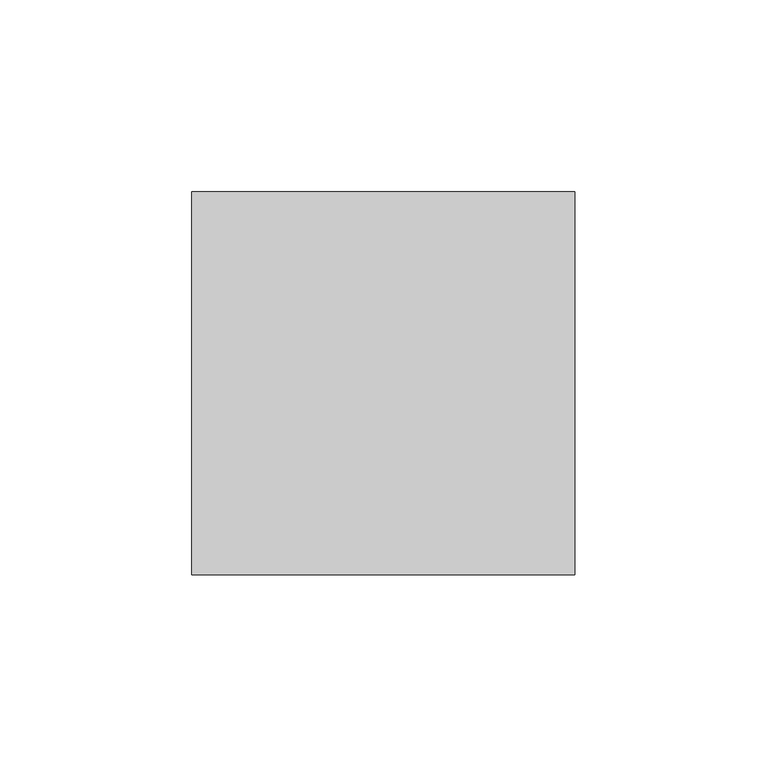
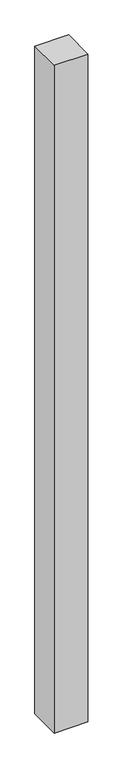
"""IFC4 building model written with IfcOpenShell, lengths in millimetres: member geometry, Montante angular cuadrilátero : Montante cuadrilátero 1."""

from ifc_helpers import new_model, si_unit, frame, origin, place, context, project, spatial, polyline, outline, extrude, source, transform, mapped, element, save


def member_ea5f2fb6(model_context):
    return source(origin(), model_context, "Body", "SweptSolid", [
        extrude(outline(polyline([(50.0, -50.0), (-50.0, -50.0), (-50.0, 50.0), (50.0, 50.0), (50.0, -50.0)])), frame((0.0, 0.0, -2100.0), z_axis=(0.0, 0.0, 1.0), x_axis=(1.0, 0.0, 0.0)), (0.0, 0.0, 1.0), 2100.0),
    ])


if __name__ == "__main__":
    model = new_model("IFC4")
    model_context = context("Model", 3, world=origin())
    ifc_project = project(units=[si_unit("LENGTHUNIT", "METRE", prefix="MILLI")], contexts=[model_context])
    site = spatial("IfcSite", under=ifc_project)
    building = spatial("IfcBuilding", under=site)
    placement = place(None, origin())
    member_shape = member_ea5f2fb6(model_context)
    element("IfcMember", 1, ObjectType="Montante angular cuadrilátero : Montante cuadrilátero 1", at=placement, inside=building, context=model_context, shape_type="MappedRepresentation", body=[
        mapped(member_shape, transform((0.0, 0.0, 0.0), x_axis=(1.0, 0.0, 0.0), y_axis=(0.0, 1.0, 0.0), z_axis=(0.0, 0.0, 1.0))),
    ])
    save(model, "model.ifc")
